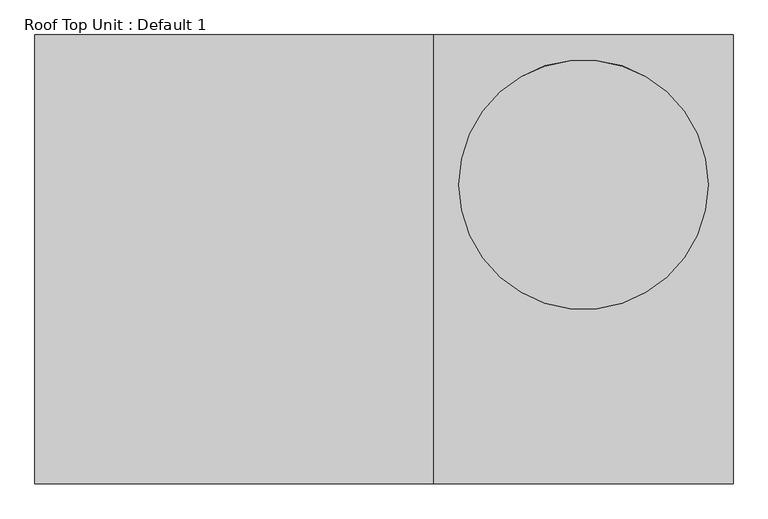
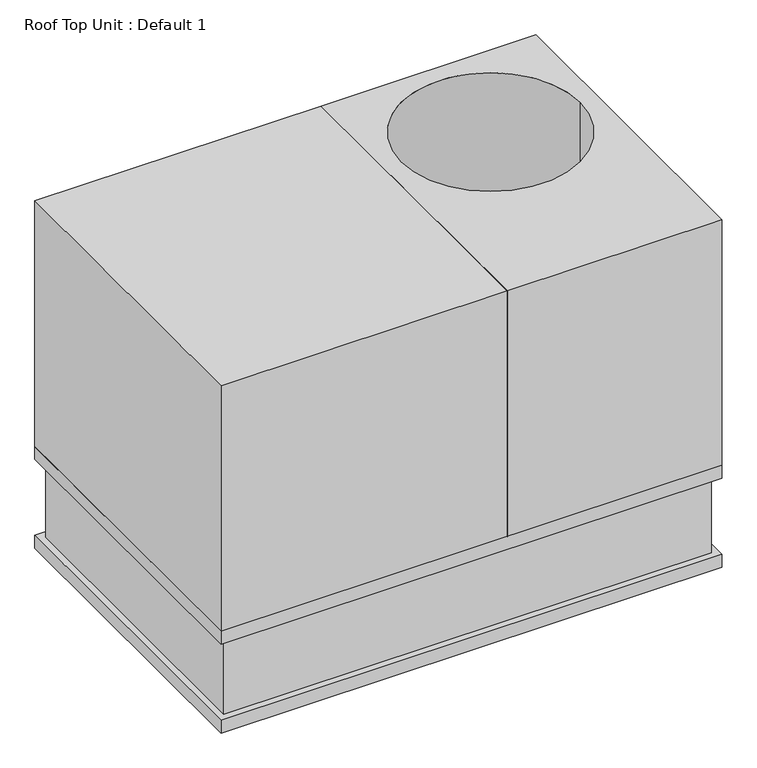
"""IFC4 building model written with IfcOpenShell, lengths in millimetres: proxy geometry, Roof Top Unit : Default 1."""

from ifc_helpers import new_model, si_unit, frame, origin, place, context, project, spatial, polyline, circle_curve, outline, extrude, faceted_brep, source, transform, mapped, element, save
from ifc_brep_helpers import plane_surface, revolved_surface, advanced_brep


def roof_top_unit_default_1_87c86c3b(model_context):
    return source(origin(), model_context, "Body", "SolidModel", [
        faceted_brep([(1179.4049807, 431.8, 304.8), (1179.4049807, 431.8, 0.0), (1179.4049807, -431.8, 0.0), (1179.4049807, -431.8, 304.8), (1204.8049807, 457.2, 266.7), (1204.8049807, 457.2, 304.8), (1204.8049807, -457.2, 304.8), (1204.8049807, -457.2, 266.7), (1185.7549807, 438.15, 38.1), (1185.7549807, 438.15, 266.7), (1185.7549807, -438.15, 266.7), (1185.7549807, -438.15, 38.1), (1204.8049807, 457.2, 0.0), (1204.8049807, 457.2, 38.1), (1204.8049807, -457.2, 38.1), (1204.8049807, -457.2, 0.0), (-192.1950193, -431.8, 0.0), (-192.1950193, -431.8, 304.8), (-217.5950193, -457.2, 304.8), (-217.5950193, -457.2, 266.7), (-198.5450193, -438.15, 266.7), (-198.5450193, -438.15, 38.1), (-217.5950193, -457.2, 38.1), (-217.5950193, -457.2, 0.0), (-192.1950193, 431.8, 0.0), (-192.1950193, 431.8, 304.8), (-217.5950193, 457.2, 304.8), (-217.5950193, 457.2, 266.7), (-198.5450193, 438.15, 266.7), (-198.5450193, 438.15, 38.1), (-217.5950193, 457.2, 38.1), (-217.5950193, 457.2, 0.0)], [[[0, 1, 2, 3]], [[4, 5, 6, 7]], [[8, 9, 10, 11]], [[12, 13, 14, 15]], [[3, 2, 16, 17]], [[7, 6, 18, 19]], [[11, 10, 20, 21]], [[15, 14, 22, 23]], [[17, 16, 24, 25]], [[19, 18, 26, 27]], [[21, 20, 28, 29]], [[23, 22, 30, 31]], [[25, 24, 1, 0]], [[5, 26, 18, 6], [3, 17, 25, 0]], [[27, 26, 5, 4]], [[7, 19, 27, 4], [9, 28, 20, 10]], [[29, 28, 9, 8]], [[13, 30, 22, 14], [11, 21, 29, 8]], [[31, 30, 13, 12]], [[15, 23, 31, 12], [1, 24, 16, 2]]]),
        extrude(outline(polyline([(315.8049807, 457.2), (569.8049807, 457.2), (569.8049807, 431.8), (315.8049807, 431.8), (315.8049807, 457.2)])), frame((0.0, 0.0, 457.2), z_axis=(0.0, 0.0, 1.0), x_axis=(1.0, 0.0, 0.0)), (0.0, 0.0, 1.0), 444.5),
        extrude(outline(polyline([(-1.6950193, 457.2), (252.3049807, 457.2), (252.3049807, 431.8), (-1.6950193, 431.8), (-1.6950193, 457.2)])), frame((0.0, 0.0, 457.2), z_axis=(0.0, 0.0, 1.0), x_axis=(1.0, 0.0, 0.0)), (0.0, 0.0, 1.0), 444.5),
        advanced_brep(
        [(1204.8049807, 457.2, 1041.4), (595.2049807, 457.2, 1041.4), (595.2049807, -457.2, 1041.4), (1204.8049807, -457.2, 1041.4), (1154.0049807, 152.4, 1041.4), (646.0049807, 152.4, 1041.4), (1204.8049807, 457.2, 304.8), (1204.8049807, -457.2, 304.8), (595.2049807, -457.2, 304.8), (595.2049807, 457.2, 304.8), (646.0049807, 152.4, 330.2), (1154.0049807, 152.4, 330.2)],
        [
            (0, 1),
            (1, 2),
            (2, 3),
            (3, 0),
            (4, 5, circle_curve(frame((900.0049807, 152.4, 1041.4), z_axis=(0.0, 0.0, -1.0), x_axis=(1.0, 0.0, 0.0)), 254.0)),
            (5, 4, circle_curve(frame((900.0049807, 152.4, 1041.4), z_axis=(0.0, 0.0, -1.0), x_axis=(1.0, 0.0, 0.0)), 254.0)),
            (6, 7),
            (7, 8),
            (8, 9),
            (9, 6),
            (0, 6),
            (9, 1),
            (8, 2),
            (7, 3),
            (10, 11, circle_curve(frame((900.0049807, 152.4, 330.2), z_axis=(0.0, 0.0, 1.0), x_axis=(1.0, 0.0, 0.0)), 254.0)),
            (11, 10, circle_curve(frame((900.0049807, 152.4, 330.2), z_axis=(0.0, 0.0, 1.0), x_axis=(1.0, 0.0, 0.0)), 254.0)),
            (10, 5),
            (4, 11),
        ],
        [
            plane_surface(frame((595.2049807, 457.2, 1041.4), z_axis=(0.0, 0.0, 1.0), x_axis=(-1.0, 0.0, 0.0))),
            plane_surface(frame((595.2049807, 457.2, 304.8), z_axis=(0.0, 0.0, -1.0), x_axis=(1.0, 0.0, 0.0))),
            plane_surface(frame((1204.8049807, 457.2, 1041.4), z_axis=(0.0, 1.0, 0.0), x_axis=(0.0, 0.0, -1.0))),
            plane_surface(frame((595.2049807, 457.2, 1041.4), z_axis=(-1.0, 0.0, 0.0), x_axis=(0.0, 0.0, -1.0))),
            plane_surface(frame((595.2049807, -457.2, 1041.4), z_axis=(0.0, -1.0, 0.0), x_axis=(0.0, 0.0, -1.0))),
            plane_surface(frame((1204.8049807, -457.2, 1041.4), z_axis=(1.0, 0.0, 0.0), x_axis=(0.0, 0.0, -1.0))),
            plane_surface(frame((1154.0049807, 152.4, 330.2), z_axis=(0.0, 0.0, 1.0), x_axis=(0.0, -1.0, 0.0))),
            revolved_surface(polyline([(1154.0049807, 152.4, 1041.4), (1154.0049807, 152.4, 330.2)]), (900.0049807, 152.4, 330.2), (0.0, 0.0, 1.0)),
        ],
        [
            (0, [[1, 2, 3, 4], [5, 6]]),
            (1, [[7, 8, 9, 10]]),
            (2, [[-1, 11, -10, 12]]),
            (3, [[-2, -12, -9, 13]]),
            (4, [[-3, -13, -8, 14]]),
            (5, [[-4, -14, -7, -11]]),
            (6, [[15, 16]]),
            (7, [[-15, 17, -5, 18]]),
            (7, [[-16, -18, -6, -17]]),
        ],
    ),
        faceted_brep([(595.2049807, -457.2, 1041.4), (595.2049807, 457.2, 1041.4), (-217.5950193, 457.2, 1041.4), (-217.5950193, -457.2, 1041.4), (595.2049807, -457.2, 304.8), (-217.5950193, -457.2, 304.8), (-217.5950193, 457.2, 304.8), (595.2049807, 457.2, 304.8), (315.8049807, 431.8, 304.8), (315.8049807, -12.7, 304.8), (569.8049807, -12.7, 304.8), (569.8049807, 431.8, 304.8), (252.3049807, 431.8, 304.8), (-192.1950193, 431.8, 304.8), (-192.1950193, 190.5, 304.8), (252.3049807, 190.5, 304.8), (-1.6950193, 457.2, 901.7), (-1.6950193, 457.2, 457.2), (252.3049807, 457.2, 457.2), (252.3049807, 457.2, 901.7), (315.8049807, 457.2, 901.7), (315.8049807, 457.2, 457.2), (569.8049807, 457.2, 457.2), (569.8049807, 457.2, 901.7), (315.8049807, 431.8, 990.6), (569.8049807, 431.8, 990.6), (569.8049807, -12.7, 990.6), (315.8049807, -12.7, 990.6), (315.8049807, 431.8, 457.2), (315.8049807, 431.8, 901.7), (569.8049807, 431.8, 901.7), (569.8049807, 431.8, 457.2), (252.3049807, 431.8, 990.6), (252.3049807, 190.5, 990.6), (-192.1950193, 190.5, 990.6), (-192.1950193, 431.8, 990.6), (252.3049807, 431.8, 457.2), (-1.6950193, 431.8, 457.2), (-1.6950193, 431.8, 901.7), (252.3049807, 431.8, 901.7), (252.3049807, 190.5, 901.7), (-1.6950193, 190.5, 901.7), (-1.6950193, 190.5, 457.2), (252.3049807, 190.5, 457.2), (252.3049807, 177.8, 457.2), (252.3049807, 177.8, 901.7), (-1.6950193, 177.8, 901.7), (-1.6950193, 177.8, 457.2)], [[[0, 1, 2, 3]], [[4, 5, 6, 7], [8, 9, 10, 11], [12, 13, 14, 15]], [[1, 0, 4, 7]], [[2, 1, 7, 6], [16, 17, 18, 19], [20, 21, 22, 23]], [[3, 2, 6, 5]], [[0, 3, 5, 4]], [[24, 25, 26, 27]], [[24, 27, 9, 8, 28, 21, 20, 29]], [[9, 27, 26, 10]], [[26, 25, 30, 23, 22, 31, 11, 10]], [[8, 11, 31, 28]], [[25, 24, 29, 30]], [[32, 33, 34, 35]], [[32, 35, 13, 12, 36, 37, 38, 39]], [[35, 34, 14, 13]], [[34, 33, 40, 41, 42, 43, 15, 14]], [[33, 32, 39, 19, 18, 36, 12, 15, 43, 44, 45, 40]], [[46, 45, 44, 47]], [[46, 47, 42, 41]], [[16, 38, 37, 17]], [[36, 18, 17, 37]], [[47, 44, 43, 42]], [[19, 39, 38, 16]], [[45, 46, 41, 40]], [[21, 28, 31, 22]], [[29, 20, 23, 30]]]),
    ])


if __name__ == "__main__":
    model = new_model("IFC4")
    model_context = context("Model", 3, world=origin())
    ifc_project = project(units=[si_unit("LENGTHUNIT", "METRE", prefix="MILLI")], contexts=[model_context])
    site = spatial("IfcSite", under=ifc_project)
    building = spatial("IfcBuilding", under=site)
    placement = place(None, origin())
    roof_top_unit_default_1_shape = roof_top_unit_default_1_87c86c3b(model_context)
    element("IfcBuildingElementProxy", 1, Name="Roof Top Unit : Default 1", ObjectType="Roof Top Unit : Default 1", at=placement, inside=building, context=model_context, shape_type="MappedRepresentation", body=[
        mapped(roof_top_unit_default_1_shape, transform((0.0, 0.0, 0.0), x_axis=(1.0, 0.0, 0.0), y_axis=(0.0, 1.0, 0.0), z_axis=(0.0, 0.0, 1.0))),
    ])
    save(model, "model.ifc")
